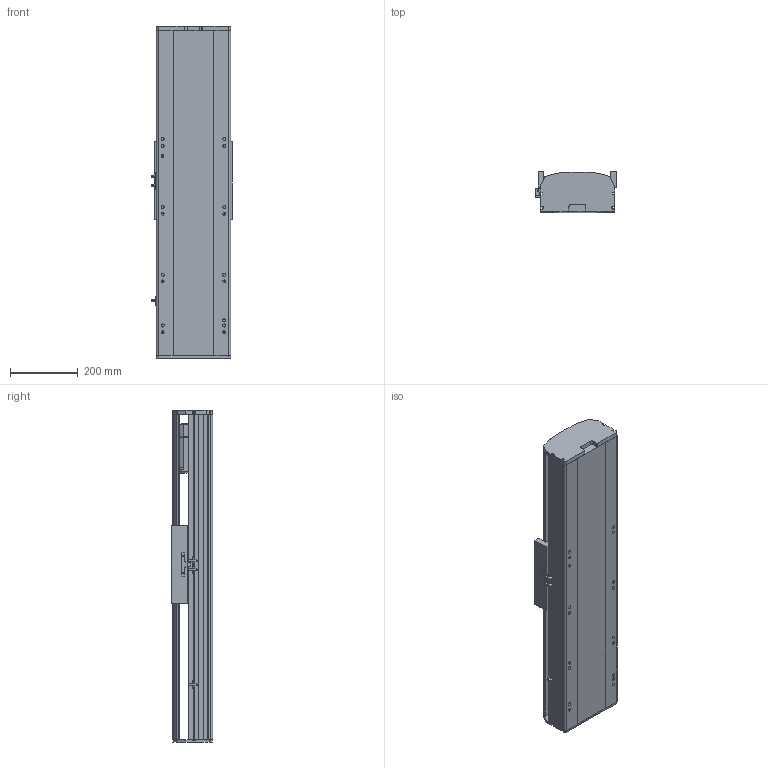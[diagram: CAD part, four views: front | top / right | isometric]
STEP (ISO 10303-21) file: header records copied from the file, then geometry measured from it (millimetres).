
FILE_DESCRIPTION (( 'STEP AP214' ), '1' );
FILE_NAME ('RTH22-XX-350-B-M75B-C4.STEP', '2025-10-24T10:06:33', ( 'Microsoft' ), ( 'Microsoft' ), 'SwSTEP 2.0', 'SolidWorks 2018', '' );
FILE_SCHEMA (( 'AUTOMOTIVE_DESIGN' ));
Length unit declared in the file: millimetre
Products named in the file (9): N_750W萇儂^RTH22-XX-XX-B-M75B-C4; RTH22-XX-350-B-M75B-C4; N_RTH22-B-011B菁釱^RTH22-XX-XX-B-M75B-C4; N_RTH22-B-007B奻裔^RTH22-XX-XX-B-M75B-C4; N_RTH22-B008萇儂啣^RTH22-XX-XX-B-M75B-C4; N_RTH22-E-004-SFS25賑釱^RTH22-XX-XX-B-M75B-C4; N_OMRON EE-SX672 传感器^RTH22-XX-XX-B-M75B-C4; N_RTH22-GY-001耜裔^RTH22-XX-XX-B-M75B-C4; N_RTH22-GY-013外置感应片^RTH22-XX-XX-B-M75B-C4
Assembly tree (10 placements, depth 2):
  RTH22-XX-350-B-M75B-C4
    N_RTH22-B-011B菁釱^RTH22-XX-XX-B-M75B-C4
    N_RTH22-GY-001耜裔^RTH22-XX-XX-B-M75B-C4
    N_750W萇儂^RTH22-XX-XX-B-M75B-C4
    N_RTH22-B008萇儂啣^RTH22-XX-XX-B-M75B-C4
    N_RTH22-B-007B奻裔^RTH22-XX-XX-B-M75B-C4
    N_OMRON EE-SX672 传感器^RTH22-XX-XX-B-M75B-C4  x3
    N_RTH22-GY-013外置感应片^RTH22-XX-XX-B-M75B-C4
    N_RTH22-E-004-SFS25賑釱^RTH22-XX-XX-B-M75B-C4
Bounding box: 238.5 x 122 x 980 mm (x, y, z)
Volume: 14362003.8 mm3; surface area: 1506641.7 mm2
Topology: 10 solids, 10 shells, 1479 faces, 4050 edges, 2623 vertices
Faces by surface type: plane 748, cylinder 406, bspline 279, cone 46
Entity records: 36117 total; most frequent: CARTESIAN_POINT 11401, ORIENTED_EDGE 5100, DIRECTION 4728, EDGE_CURVE 2550, VERTEX_POINT 1659, VECTOR 1596, LINE 1596, AXIS2_PLACEMENT_3D 1566
